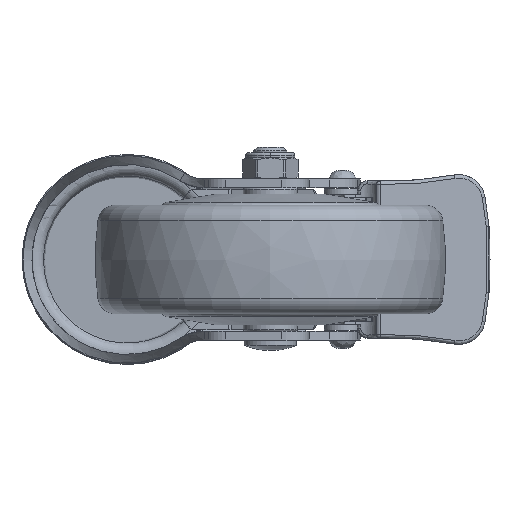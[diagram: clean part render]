
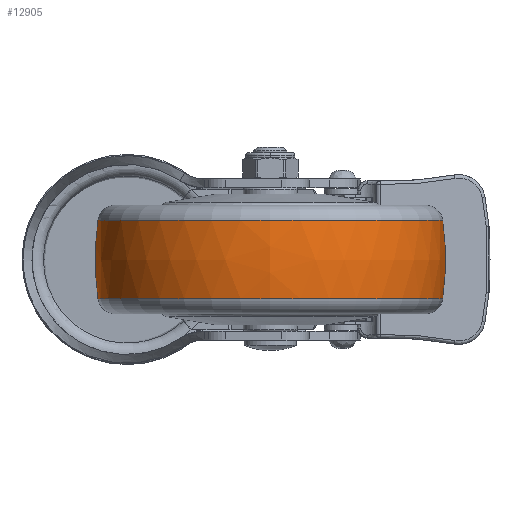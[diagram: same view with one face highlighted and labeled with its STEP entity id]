
A CAD part, front view. The second image highlights one B-rep face of the part: STEP entity #12905.
In plain terms, the highlighted free-form (B-spline) face has degree [3, 3] with [7, 4] control points.
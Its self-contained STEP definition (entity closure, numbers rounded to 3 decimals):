
#12216=CARTESIAN_POINT('',(-11.2,0.,0.));
#12217=DIRECTION('',(-1.,0.,0.));
#12218=DIRECTION('',(0.,1.,0.));
#12219=AXIS2_PLACEMENT_3D('',#12216,#12217,#12218);
#12231=CARTESIAN_POINT('',(0.,-30.,0.));
#12232=DIRECTION('',(0.,0.,1.));
#12233=DIRECTION('',(0.14,0.99,0.));
#12234=AXIS2_PLACEMENT_3D('',#12231,#12232,#12233);
#12236=CARTESIAN_POINT('',(0.,30.,0.));
#12237=DIRECTION('',(0.,0.,-1.));
#12238=DIRECTION('',(0.14,-0.99,0.));
#12239=AXIS2_PLACEMENT_3D('',#12236,#12237,#12238);
#12241=CARTESIAN_POINT('',(11.2,0.,0.));
#12242=DIRECTION('',(-1.,0.,0.));
#12243=DIRECTION('',(0.,1.,0.));
#12244=AXIS2_PLACEMENT_3D('',#12241,#12242,#12243);
#12479=CARTESIAN_POINT('',(11.2,49.212,0.));
#12481=VERTEX_POINT('',#12479);
#12482=CARTESIAN_POINT('',(-11.2,49.212,0.));
#12483=VERTEX_POINT('',#12482);
#12527=CARTESIAN_POINT('',(11.2,-49.212,
0.));
#12529=VERTEX_POINT('',#12527);
#12530=CARTESIAN_POINT('',(-11.2,-49.212,
0.));
#12531=VERTEX_POINT('',#12530);
#12869=CARTESIAN_POINT('',(-11.645,-49.051,
3.086));
#12870=CARTESIAN_POINT('',(-3.909,-50.187,
3.157));
#12871=CARTESIAN_POINT('',(3.909,-50.187,
3.157));
#12872=CARTESIAN_POINT('',(11.645,-49.051,
3.086));
#12873=CARTESIAN_POINT('',(-11.645,-50.95,
-27.1));
#12874=CARTESIAN_POINT('',(-3.909,-52.13,
-27.727));
#12875=CARTESIAN_POINT('',(3.909,-52.13,
-27.727));
#12876=CARTESIAN_POINT('',(11.645,-50.95,
-27.1));
#12877=CARTESIAN_POINT('',(-11.645,-30.246,
-49.148));
#12878=CARTESIAN_POINT('',(-3.909,-30.946,
-50.286));
#12879=CARTESIAN_POINT('',(3.909,-30.946,
-50.286));
#12880=CARTESIAN_POINT('',(11.645,-30.246,
-49.148));
#12881=CARTESIAN_POINT('',(-11.645,0.,
-49.148));
#12882=CARTESIAN_POINT('',(-3.909,0.,
-50.286));
#12883=CARTESIAN_POINT('',(3.909,0.,-50.286));
#12884=CARTESIAN_POINT('',(11.645,0.,
-49.148));
#12885=CARTESIAN_POINT('',(-11.645,30.246,
-49.148));
#12886=CARTESIAN_POINT('',(-3.909,30.946,
-50.286));
#12887=CARTESIAN_POINT('',(3.909,30.946,
-50.286));
#12888=CARTESIAN_POINT('',(11.645,30.246,
-49.148));
#12889=CARTESIAN_POINT('',(-11.645,50.95,
-27.1));
#12890=CARTESIAN_POINT('',(-3.909,52.13,
-27.727));
#12891=CARTESIAN_POINT('',(3.909,52.13,
-27.727));
#12892=CARTESIAN_POINT('',(11.645,50.95,
-27.1));
#12893=CARTESIAN_POINT('',(-11.645,49.051,
3.086));
#12894=CARTESIAN_POINT('',(-3.909,50.187,
3.157));
#12895=CARTESIAN_POINT('',(3.909,50.187,3.157));
#12896=CARTESIAN_POINT('',(11.645,49.051,3.086));
#12897=(BOUNDED_SURFACE()B_SPLINE_SURFACE(3,3,((#12869,#12870,#12871,#12872),(
#12873,#12874,#12875,#12876),(#12877,#12878,#12879,#12880),(#12881,#12882,
#12883,#12884),(#12885,#12886,#12887,#12888),(#12889,#12890,#12891,#12892),(
#12893,#12894,#12895,#12896)),.UNSPECIFIED.,.F.,.F.,.F.)B_SPLINE_SURFACE_WITH_KNOTS((4,3,4),(4,4),(0.,1.,2.),(0.,1.),.UNSPECIFIED.)GEOMETRIC_REPRESENTATION_ITEM()RATIONAL_B_SPLINE_SURFACE(((1.194,1.185,
1.185,1.194),(0.943,0.936,
0.936,0.943),(0.943,0.936,
0.936,0.943),(1.194,1.185,
1.185,1.194),(0.943,0.936,
0.936,0.943),(0.943,0.936,
0.936,0.943),(1.194,1.185,
1.185,1.194)))REPRESENTATION_ITEM('')SURFACE());
#12898=ORIENTED_EDGE('',*,*,#12859,.T.);
#12899=ORIENTED_EDGE('',*,*,#12812,.T.);
#12900=ORIENTED_EDGE('',*,*,#12863,.F.);
#12902=ORIENTED_EDGE('',*,*,#12901,.F.);
#12903=EDGE_LOOP('',(#12898,#12899,#12900,#12902));
#12904=FACE_OUTER_BOUND('',#12903,.F.);
#12220=CIRCLE('',#12219,49.212);
#12235=CIRCLE('',#12234,80.);
#12240=CIRCLE('',#12239,80.);
#12245=CIRCLE('',#12244,49.212);
#12812=EDGE_CURVE('',#12483,#12531,#12220,.T.);
#12859=EDGE_CURVE('',#12481,#12483,#12235,.T.);
#12863=EDGE_CURVE('',#12529,#12531,#12240,.T.);
#12901=EDGE_CURVE('',#12481,#12529,#12245,.T.);
#12905=ADVANCED_FACE('',(#12904),#12897,.T.);
